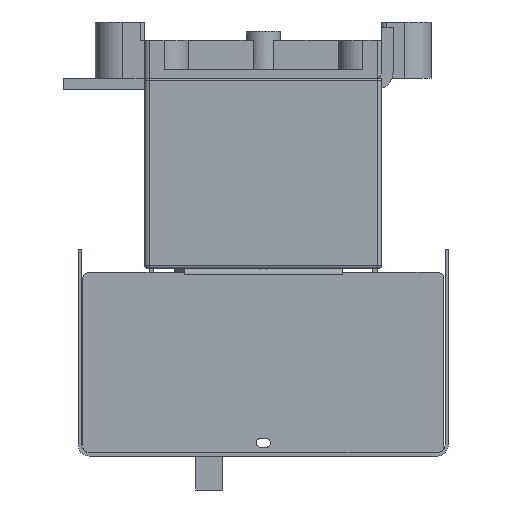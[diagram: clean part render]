
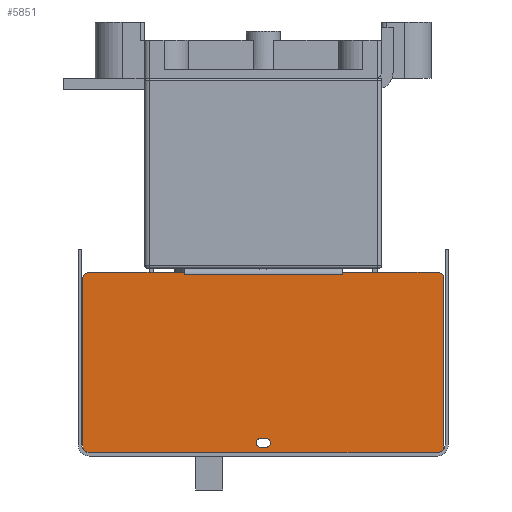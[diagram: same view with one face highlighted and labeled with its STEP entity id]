
A CAD part, left-side view. The second image highlights one B-rep face of the part: STEP entity #5851.
In plain terms, the highlighted planar face has unit normal (-1, 0, 0).
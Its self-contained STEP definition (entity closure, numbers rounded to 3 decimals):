
#596=FACE_BOUND('',#8822,.T.);
#597=FACE_BOUND('',#8823,.T.);
#2185=LINE('',#32757,#4382);
#2192=LINE('',#32775,#4389);
#2198=LINE('',#32792,#4395);
#2202=LINE('',#32805,#4399);
#2207=LINE('',#32822,#4404);
#2208=LINE('',#32827,#4405);
#2213=LINE('',#32840,#4410);
#2214=LINE('',#32842,#4411);
#2215=LINE('',#32844,#4412);
#2216=LINE('',#32846,#4413);
#2217=LINE('',#32848,#4414);
#2218=LINE('',#32850,#4415);
#4382=VECTOR('',#26607,1.);
#4389=VECTOR('',#26620,1.);
#4395=VECTOR('',#26634,1.);
#4399=VECTOR('',#26646,1.);
#4404=VECTOR('',#26665,1.);
#4405=VECTOR('',#26674,1.);
#4410=VECTOR('',#26687,1.);
#4411=VECTOR('',#26690,1.);
#4412=VECTOR('',#26691,1.);
#4413=VECTOR('',#26692,1.);
#4414=VECTOR('',#26693,1.);
#4415=VECTOR('',#26694,1.);
#5851=ADVANCED_FACE('',(#596,#597),#6736,.T.);
#6736=PLANE('',#22219);
#8822=EDGE_LOOP('',(#13021,#13022,#13023,#13024,#13025,#13026,#13027,#13028,
#13029,#13030,#13031,#13032,#13033,#13034));
#8823=EDGE_LOOP('',(#13035,#13036,#13037,#13038));
#13021=ORIENTED_EDGE('',*,*,#19213,.F.);
#13022=ORIENTED_EDGE('',*,*,#19214,.T.);
#13023=ORIENTED_EDGE('',*,*,#19215,.T.);
#13024=ORIENTED_EDGE('',*,*,#19216,.T.);
#13025=ORIENTED_EDGE('',*,*,#19217,.F.);
#13026=ORIENTED_EDGE('',*,*,#19205,.T.);
#13027=ORIENTED_EDGE('',*,*,#19210,.T.);
#13028=ORIENTED_EDGE('',*,*,#19193,.T.);
#13029=ORIENTED_EDGE('',*,*,#19196,.T.);
#13030=ORIENTED_EDGE('',*,*,#19171,.T.);
#13031=ORIENTED_EDGE('',*,*,#19199,.T.);
#13032=ORIENTED_EDGE('',*,*,#19202,.T.);
#13033=ORIENTED_EDGE('',*,*,#19204,.T.);
#13034=ORIENTED_EDGE('',*,*,#19179,.T.);
#13035=ORIENTED_EDGE('',*,*,#19183,.T.);
#13036=ORIENTED_EDGE('',*,*,#19187,.T.);
#13037=ORIENTED_EDGE('',*,*,#19190,.T.);
#13038=ORIENTED_EDGE('',*,*,#19212,.T.);
#16242=VERTEX_POINT('',#31586);
#16287=VERTEX_POINT('',#31683);
#16571=VERTEX_POINT('',#32774);
#16572=VERTEX_POINT('',#32776);
#16575=VERTEX_POINT('',#32783);
#16576=VERTEX_POINT('',#32785);
#16578=VERTEX_POINT('',#32791);
#16580=VERTEX_POINT('',#32797);
#16583=VERTEX_POINT('',#32804);
#16584=VERTEX_POINT('',#32806);
#16586=VERTEX_POINT('',#32815);
#16588=VERTEX_POINT('',#32821);
#16589=VERTEX_POINT('',#32828);
#16590=VERTEX_POINT('',#32829);
#16593=VERTEX_POINT('',#32843);
#16594=VERTEX_POINT('',#32845);
#16595=VERTEX_POINT('',#32847);
#16596=VERTEX_POINT('',#32849);
#19171=EDGE_CURVE('',#16242,#16287,#2185,.T.);
#19179=EDGE_CURVE('',#16572,#16571,#2192,.T.);
#19183=EDGE_CURVE('',#16576,#16575,#20750,.T.);
#19187=EDGE_CURVE('',#16575,#16578,#2198,.T.);
#19190=EDGE_CURVE('',#16578,#16580,#20752,.T.);
#19193=EDGE_CURVE('',#16584,#16583,#2202,.T.);
#19196=EDGE_CURVE('',#16583,#16242,#20754,.T.);
#19199=EDGE_CURVE('',#16287,#16586,#20756,.T.);
#19202=EDGE_CURVE('',#16586,#16588,#2207,.T.);
#19204=EDGE_CURVE('',#16588,#16572,#20758,.T.);
#19205=EDGE_CURVE('',#16589,#16590,#2208,.T.);
#19210=EDGE_CURVE('',#16590,#16584,#20760,.T.);
#19212=EDGE_CURVE('',#16580,#16576,#2213,.T.);
#19213=EDGE_CURVE('',#16593,#16571,#2214,.T.);
#19214=EDGE_CURVE('',#16593,#16594,#2215,.T.);
#19215=EDGE_CURVE('',#16594,#16595,#2216,.T.);
#19216=EDGE_CURVE('',#16595,#16596,#2217,.T.);
#19217=EDGE_CURVE('',#16589,#16596,#2218,.T.);
#20750=CIRCLE('',#22197,2.1);
#20752=CIRCLE('',#22201,2.1);
#20754=CIRCLE('',#22205,3.);
#20756=CIRCLE('',#22208,3.);
#20758=CIRCLE('',#22212,3.);
#20760=CIRCLE('',#22216,3.);
#22197=AXIS2_PLACEMENT_3D('',#32784,#26627,#26628);
#22201=AXIS2_PLACEMENT_3D('',#32798,#26640,#26641);
#22205=AXIS2_PLACEMENT_3D('',#32810,#26652,#26653);
#22208=AXIS2_PLACEMENT_3D('',#32816,#26659,#26660);
#22212=AXIS2_PLACEMENT_3D('',#32825,#26670,#26671);
#22216=AXIS2_PLACEMENT_3D('',#32837,#26682,#26683);
#22219=AXIS2_PLACEMENT_3D('',#32851,#26695,#26696);
#26607=DIRECTION('',(0.,-1.,0.));
#26620=DIRECTION('',(0.,1.,0.));
#26627=DIRECTION('',(1.,0.,0.));
#26628=DIRECTION('',(0.,1.,0.));
#26634=DIRECTION('',(0.,-1.,0.));
#26640=DIRECTION('',(1.,0.,0.));
#26641=DIRECTION('',(0.,1.,0.));
#26646=DIRECTION('',(0.,0.,-1.));
#26652=DIRECTION('',(-1.,0.,0.));
#26653=DIRECTION('',(0.,1.,0.));
#26659=DIRECTION('',(-1.,0.,0.));
#26660=DIRECTION('',(0.,1.,0.));
#26665=DIRECTION('',(0.,0.,1.));
#26670=DIRECTION('',(-1.,0.,0.));
#26671=DIRECTION('',(0.,1.,0.));
#26674=DIRECTION('',(0.,1.,0.));
#26682=DIRECTION('',(-1.,0.,0.));
#26683=DIRECTION('',(0.,1.,0.));
#26687=DIRECTION('',(0.,1.,0.));
#26690=DIRECTION('',(0.,0.,1.));
#26691=DIRECTION('',(0.,1.,0.));
#26692=DIRECTION('',(0.,1.,0.));
#26693=DIRECTION('',(0.,1.,0.));
#26694=DIRECTION('',(0.,0.,-1.));
#26695=DIRECTION('',(-1.,0.,0.));
#26696=DIRECTION('',(0.,-1.,0.));
#31586=CARTESIAN_POINT('',(-189.3,77.,-165.8));
#31683=CARTESIAN_POINT('',(-189.3,-77.,-165.8));
#32757=CARTESIAN_POINT('',(-189.3,77.,-165.8));
#32774=CARTESIAN_POINT('',(-189.3,-35.002,-85.8));
#32775=CARTESIAN_POINT('',(-189.3,-77.,-85.8));
#32776=CARTESIAN_POINT('',(-189.3,-77.,-85.8));
#32783=CARTESIAN_POINT('',(-189.3,1.,-159.3));
#32784=CARTESIAN_POINT('',(-189.3,1.,-161.4));
#32785=CARTESIAN_POINT('',(-189.3,1.,-163.5));
#32791=CARTESIAN_POINT('',(-189.3,-1.,-159.3));
#32792=CARTESIAN_POINT('',(-189.3,1.,-159.3));
#32797=CARTESIAN_POINT('',(-189.3,-1.,-163.5));
#32798=CARTESIAN_POINT('',(-189.3,-1.,-161.4));
#32804=CARTESIAN_POINT('',(-189.3,80.,-162.8));
#32805=CARTESIAN_POINT('',(-189.3,80.,-88.8));
#32806=CARTESIAN_POINT('',(-189.3,80.,-88.8));
#32810=CARTESIAN_POINT('',(-189.3,77.,-162.8));
#32815=CARTESIAN_POINT('',(-189.3,-80.,-162.8));
#32816=CARTESIAN_POINT('',(-189.3,-77.,-162.8));
#32821=CARTESIAN_POINT('',(-189.3,-80.,-88.8));
#32822=CARTESIAN_POINT('',(-189.3,-80.,-162.8));
#32825=CARTESIAN_POINT('',(-189.3,-77.,-88.8));
#32827=CARTESIAN_POINT('',(-189.3,-77.,-85.8));
#32828=CARTESIAN_POINT('',(-189.3,35.002,-85.8));
#32829=CARTESIAN_POINT('',(-189.3,77.,-85.8));
#32837=CARTESIAN_POINT('',(-189.3,77.,-88.8));
#32840=CARTESIAN_POINT('',(-189.3,-1.,-163.5));
#32842=CARTESIAN_POINT('',(-189.3,-35.002,-162.8));
#32843=CARTESIAN_POINT('',(-189.3,-35.002,-86.8));
#32844=CARTESIAN_POINT('',(-189.3,77.,-86.8));
#32845=CARTESIAN_POINT('',(-189.3,-35.,-86.8));
#32846=CARTESIAN_POINT('',(-189.3,50.5,-86.8));
#32847=CARTESIAN_POINT('',(-189.3,35.,-86.8));
#32848=CARTESIAN_POINT('',(-189.3,77.,-86.8));
#32849=CARTESIAN_POINT('',(-189.3,35.002,-86.8));
#32850=CARTESIAN_POINT('',(-189.3,35.002,-162.8));
#32851=CARTESIAN_POINT('',(-189.3,77.,-162.8));
